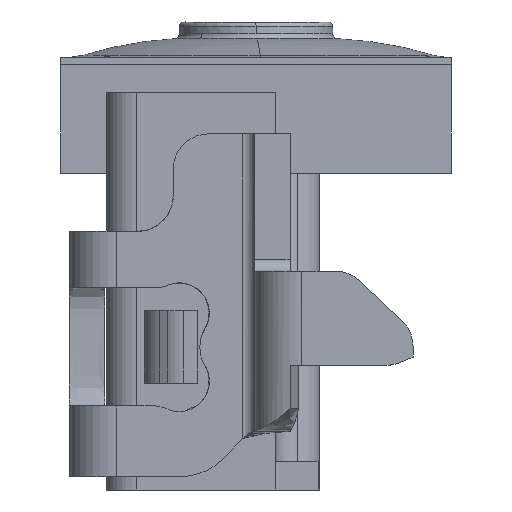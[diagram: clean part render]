
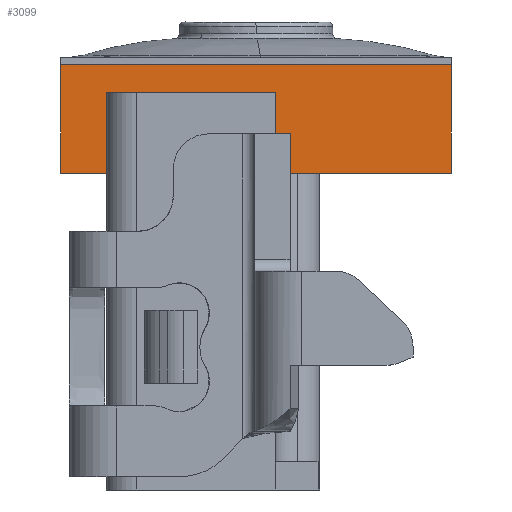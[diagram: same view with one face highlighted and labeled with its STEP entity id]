
A CAD part, left-side view. The second image highlights one B-rep face of the part: STEP entity #3099.
In plain terms, the highlighted planar face has unit normal (-1, 0, 0).
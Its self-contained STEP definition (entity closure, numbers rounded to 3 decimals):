
#2976=DIRECTION('',(0.,-1.,0.));
#2977=VECTOR('',#2976,1.651);
#2978=CARTESIAN_POINT('',(-8.121,9.926,-0.03));
#2979=LINE('',#2978,#2977);
#2983=DIRECTION('',(0.,0.,1.));
#2984=VECTOR('',#2983,0.46);
#2985=CARTESIAN_POINT('',(-8.121,9.926,-0.49));
#2986=LINE('',#2985,#2984);
#2997=DIRECTION('',(0.,0.,1.));
#2998=VECTOR('',#2997,0.46);
#2999=CARTESIAN_POINT('',(-8.121,8.276,-0.49));
#3000=LINE('',#2999,#2998);
#3004=DIRECTION('',(0.,-1.,0.));
#3005=VECTOR('',#3004,1.651);
#3006=CARTESIAN_POINT('',(-8.121,9.926,-0.49));
#3007=LINE('',#3006,#3005);
#3033=CARTESIAN_POINT('',(-8.121,8.276,-0.03));
#3034=VERTEX_POINT('',#3033);
#3035=CARTESIAN_POINT('',(-8.121,8.276,-0.49));
#3036=VERTEX_POINT('',#3035);
#3037=CARTESIAN_POINT('',(-8.121,9.926,-0.03));
#3038=VERTEX_POINT('',#3037);
#3039=CARTESIAN_POINT('',(-8.121,9.926,-0.49));
#3040=VERTEX_POINT('',#3039);
#3086=CARTESIAN_POINT('',(-8.121,8.276,-0.03));
#3087=DIRECTION('',(-1.,0.,0.));
#3088=DIRECTION('',(0.,1.,0.));
#3089=AXIS2_PLACEMENT_3D('',#3086,#3087,#3088);
#3090=PLANE('',#3089);
#3091=ORIENTED_EDGE('',*,*,#3067,.T.);
#3093=ORIENTED_EDGE('',*,*,#3092,.F.);
#3095=ORIENTED_EDGE('',*,*,#3094,.F.);
#3096=ORIENTED_EDGE('',*,*,#3078,.T.);
#3097=EDGE_LOOP('',(#3091,#3093,#3095,#3096));
#3098=FACE_OUTER_BOUND('',#3097,.F.);
#3067=EDGE_CURVE('',#3038,#3034,#2979,.T.);
#3078=EDGE_CURVE('',#3040,#3038,#2986,.T.);
#3092=EDGE_CURVE('',#3036,#3034,#3000,.T.);
#3094=EDGE_CURVE('',#3040,#3036,#3007,.T.);
#3099=ADVANCED_FACE('',(#3098),#3090,.T.);
